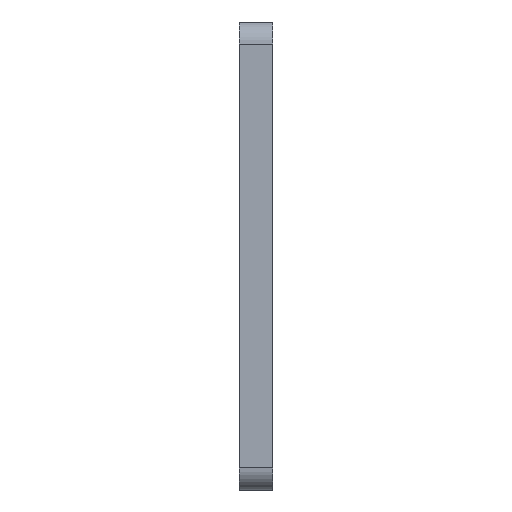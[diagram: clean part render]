
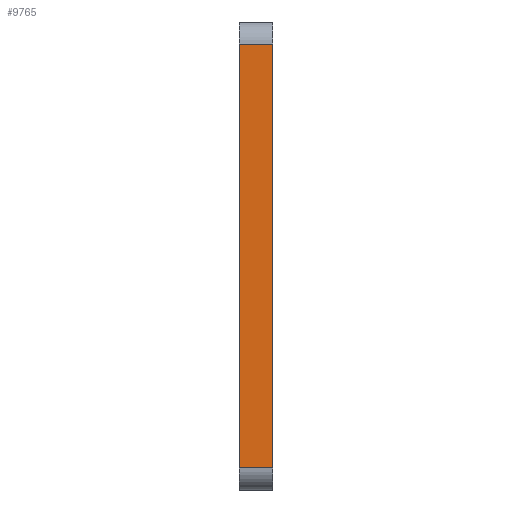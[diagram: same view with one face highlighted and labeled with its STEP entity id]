
A CAD part, left-side view. The second image highlights one B-rep face of the part: STEP entity #9765.
In plain terms, the highlighted planar face has unit normal (-1, 0, 0).
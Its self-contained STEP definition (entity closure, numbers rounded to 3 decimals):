
#522 = CARTESIAN_POINT ( 'NONE',  ( -665., 15., 95. ) ) ;
#1470 = LINE ( 'NONE', #3879, #3505 ) ;
#1493 = VERTEX_POINT ( 'NONE', #7622 ) ;
#1629 = VERTEX_POINT ( 'NONE', #7161 ) ;
#1641 = CARTESIAN_POINT ( 'NONE',  ( -665., 0., 95. ) ) ;
#1725 = AXIS2_PLACEMENT_3D ( 'NONE', #8983, #7449, #8321 ) ;
#1848 = CARTESIAN_POINT ( 'NONE',  ( -665., 15., -95. ) ) ;
#2307 = VERTEX_POINT ( 'NONE', #7501 ) ;
#2428 = EDGE_CURVE ( 'NONE', #2307, #1629, #5742, .T. ) ;
#2578 = ORIENTED_EDGE ( 'NONE', *, *, #8815, .T. ) ;
#2862 = VECTOR ( 'NONE', #6054, 1000. ) ;
#3334 = DIRECTION ( 'NONE',  ( 0., -1., 0. ) ) ;
#3505 = VECTOR ( 'NONE', #7625, 1000. ) ;
#3612 = ORIENTED_EDGE ( 'NONE', *, *, #2428, .T. ) ;
#3879 = CARTESIAN_POINT ( 'NONE',  ( -665., 0., -105. ) ) ;
#4114 = DIRECTION ( 'NONE',  ( 0., 0., 1. ) ) ;
#4984 = CARTESIAN_POINT ( 'NONE',  ( -665., 15., -105. ) ) ;
#5023 = EDGE_LOOP ( 'NONE', ( #2578, #9259, #9088, #3612 ) ) ;
#5656 = VECTOR ( 'NONE', #4114, 1000. ) ;
#5742 = LINE ( 'NONE', #1848, #8779 ) ;
#6054 = DIRECTION ( 'NONE',  ( 0., 1., 0. ) ) ;
#6722 = PLANE ( 'NONE',  #1725 ) ;
#7012 = VERTEX_POINT ( 'NONE', #1641 ) ;
#7161 = CARTESIAN_POINT ( 'NONE',  ( -665., 0., -95. ) ) ;
#7449 = DIRECTION ( 'NONE',  ( 1., 0., 0. ) ) ;
#7501 = CARTESIAN_POINT ( 'NONE',  ( -665., 15., -95. ) ) ;
#7547 = LINE ( 'NONE', #522, #2862 ) ;
#7622 = CARTESIAN_POINT ( 'NONE',  ( -665., 15., 95. ) ) ;
#7625 = DIRECTION ( 'NONE',  ( 0., 0., 1. ) ) ;
#8016 = LINE ( 'NONE', #4984, #5656 ) ;
#8321 = DIRECTION ( 'NONE',  ( 0., 0., -1. ) ) ;
#8779 = VECTOR ( 'NONE', #3334, 1000. ) ;
#8815 = EDGE_CURVE ( 'NONE', #1629, #7012, #1470, .T. ) ;
#8983 = CARTESIAN_POINT ( 'NONE',  ( -665., 15., -105. ) ) ;
#9088 = ORIENTED_EDGE ( 'NONE', *, *, #9445, .F. ) ;
#9259 = ORIENTED_EDGE ( 'NONE', *, *, #9840, .T. ) ;
#9445 = EDGE_CURVE ( 'NONE', #2307, #1493, #8016, .T. ) ;
#9765 = ADVANCED_FACE ( 'NONE', ( #9969 ), #6722, .F. ) ;
#9840 = EDGE_CURVE ( 'NONE', #7012, #1493, #7547, .T. ) ;
#9969 = FACE_OUTER_BOUND ( 'NONE', #5023, .T. ) ;
